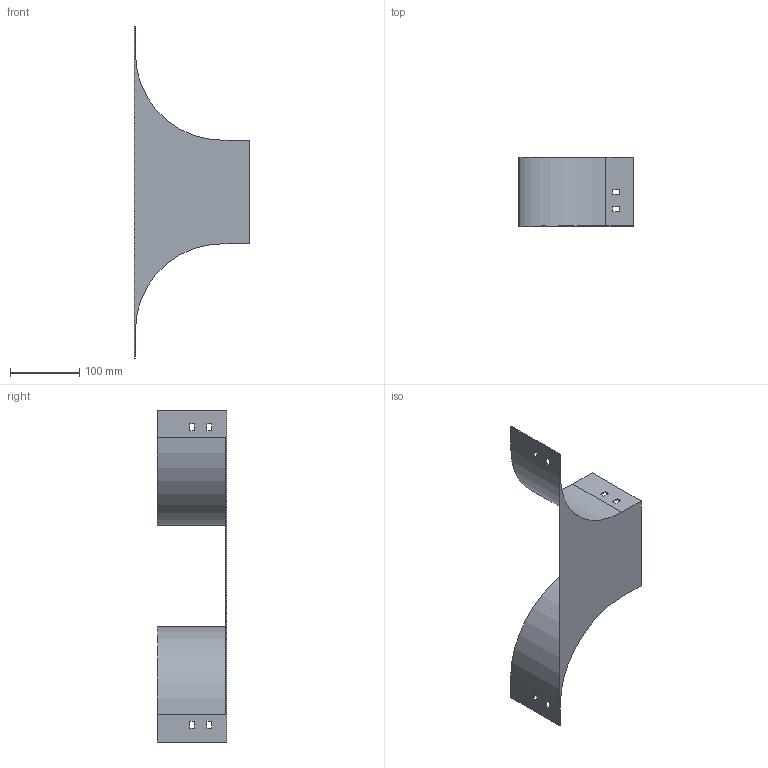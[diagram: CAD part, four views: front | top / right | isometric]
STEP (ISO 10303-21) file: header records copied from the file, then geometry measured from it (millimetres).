
FILE_DESCRIPTION (( 'STEP AP214' ), '1' );
FILE_NAME ('RL_151.step', '2025-07-16T09:24:52', ( '' ), ( '' ), 'SwSTEP 2.0', 'SolidWorks 2023', '' );
FILE_SCHEMA (( 'AUTOMOTIVE_DESIGN' ));
Length unit declared in the file: millimetre
Products named in the file (1): RL_151
Bounding box: 166.5 x 100 x 480 mm (x, y, z)
Volume: 129433.9 mm3; surface area: 175356.1 mm2
Topology: 1 solids, 1 shells, 50 faces, 144 edges, 96 vertices
Faces by surface type: plane 46, cylinder 4
Entity records: 1671 total; most frequent: CARTESIAN_POINT 291, ORIENTED_EDGE 288, DIRECTION 254, EDGE_CURVE 144, LINE 136, VECTOR 136, VERTEX_POINT 96, EDGE_LOOP 66
